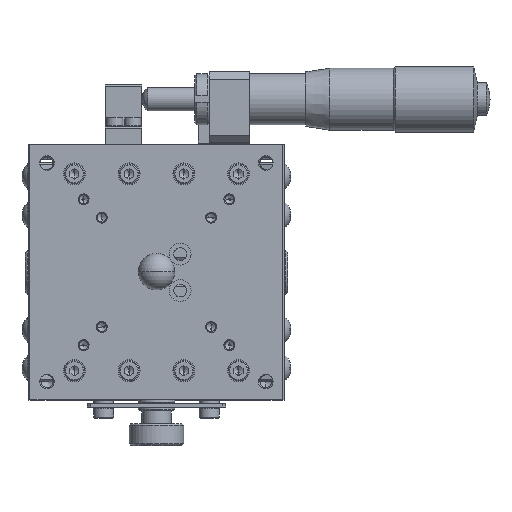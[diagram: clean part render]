
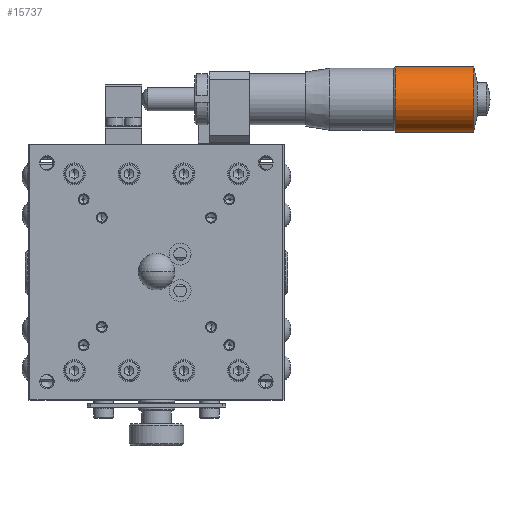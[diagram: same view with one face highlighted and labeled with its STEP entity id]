
A CAD part, top view. The second image highlights one B-rep face of the part: STEP entity #15737.
In plain terms, the highlighted cylindrical face has radius 9 mm (diameter 18 mm), a partial arc.
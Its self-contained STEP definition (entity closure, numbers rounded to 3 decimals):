
#15733 = EDGE_CURVE ( 'NONE', #15759, #15734, #40620, .T. ) ;
#15734 = VERTEX_POINT ( 'NONE', #40613 ) ;
#15737 = ADVANCED_FACE ( 'NONE', ( #40603 ), #40596, .T. ) ;
#15738 = EDGE_LOOP ( 'NONE', ( #15739, #15743, #15745, #15798 ) ) ;
#15739 = ORIENTED_EDGE ( 'NONE', *, *, #15740, .T. ) ;
#15740 = EDGE_CURVE ( 'NONE', #15741, #15742, #40701, .T. ) ;
#15741 = VERTEX_POINT ( 'NONE', #40696 ) ;
#15742 = VERTEX_POINT ( 'NONE', #40694 ) ;
#15743 = ORIENTED_EDGE ( 'NONE', *, *, #15744, .T. ) ;
#15744 = EDGE_CURVE ( 'NONE', #15742, #15734, #40691, .T. ) ;
#15745 = ORIENTED_EDGE ( 'NONE', *, *, #15733, .F. ) ;
#15759 = VERTEX_POINT ( 'NONE', #40762 ) ;
#15798 = ORIENTED_EDGE ( 'NONE', *, *, #15799, .F. ) ;
#15799 = EDGE_CURVE ( 'NONE', #15741, #15759, #40902, .T. ) ;
#40596 = CYLINDRICAL_SURFACE ( 'NONE', #40712, 9. ) ;
#40597 = CARTESIAN_POINT ( 'NONE',  ( 91., 0., 0. ) ) ;
#40603 = FACE_OUTER_BOUND ( 'NONE', #15738, .T. ) ;
#40613 = CARTESIAN_POINT ( 'NONE',  ( 69.5, 9., 0. ) ) ;
#40615 = DIRECTION ( 'NONE',  ( 0., -1., 0. ) ) ;
#40617 = DIRECTION ( 'NONE',  ( -1., 0., 0. ) ) ;
#40618 = CARTESIAN_POINT ( 'NONE',  ( 69.5, 0., 0. ) ) ;
#40619 = AXIS2_PLACEMENT_3D ( 'NONE', #40618, #40617, #40615 ) ;
#40620 = CIRCLE ( 'NONE', #40619, 9. ) ;
#40688 = DIRECTION ( 'NONE',  ( -1., 0., 0. ) ) ;
#40689 = VECTOR ( 'NONE', #40688, 1000. ) ;
#40690 = CARTESIAN_POINT ( 'NONE',  ( -2.669, 9., 0. ) ) ;
#40691 = LINE ( 'NONE', #40690, #40689 ) ;
#40694 = CARTESIAN_POINT ( 'NONE',  ( 91., 9., 0. ) ) ;
#40696 = CARTESIAN_POINT ( 'NONE',  ( 91., -9., 0. ) ) ;
#40697 = DIRECTION ( 'NONE',  ( 0., -1., 0. ) ) ;
#40698 = DIRECTION ( 'NONE',  ( -1., 0., 0. ) ) ;
#40699 = AXIS2_PLACEMENT_3D ( 'NONE', #40597, #40698, #40697 ) ;
#40701 = CIRCLE ( 'NONE', #40699, 9. ) ;
#40707 = DIRECTION ( 'NONE',  ( 0., -1., 0. ) ) ;
#40709 = DIRECTION ( 'NONE',  ( -1., 0., 0. ) ) ;
#40710 = CARTESIAN_POINT ( 'NONE',  ( -2.669, 0., 0. ) ) ;
#40712 = AXIS2_PLACEMENT_3D ( 'NONE', #40710, #40709, #40707 ) ;
#40762 = CARTESIAN_POINT ( 'NONE',  ( 69.5, -9., 0. ) ) ;
#40897 = DIRECTION ( 'NONE',  ( -1., 0., 0. ) ) ;
#40898 = VECTOR ( 'NONE', #40897, 1000. ) ;
#40900 = CARTESIAN_POINT ( 'NONE',  ( -2.669, -9., 0. ) ) ;
#40902 = LINE ( 'NONE', #40900, #40898 ) ;
